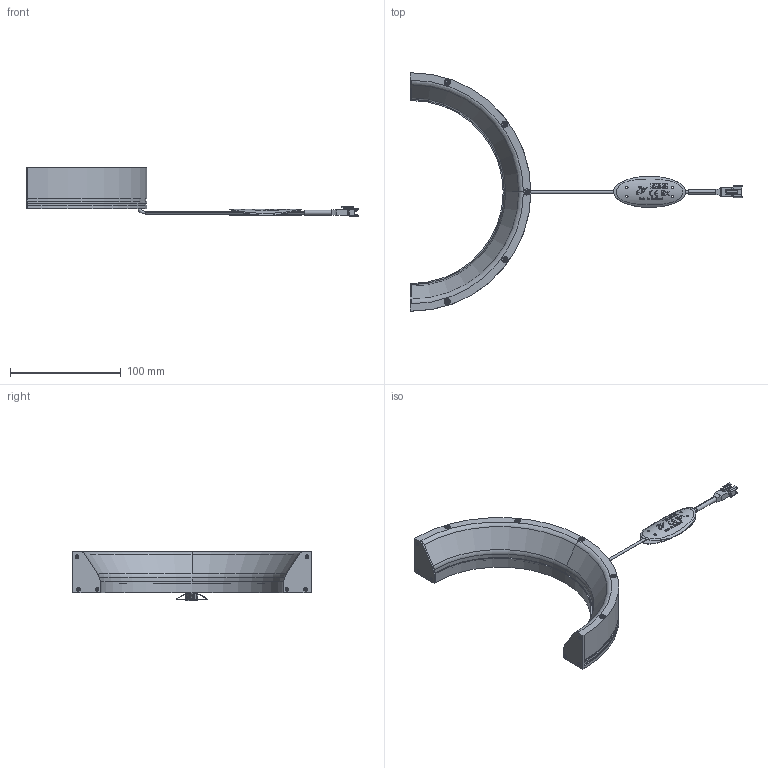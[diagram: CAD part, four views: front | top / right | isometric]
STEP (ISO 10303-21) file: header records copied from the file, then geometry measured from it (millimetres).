
FILE_DESCRIPTION( ('This file contains a STEP AP42 implementation' ,'as created by ZW3D STEP Interface translator.') ,'2;1' );
FILE_NAME( 'VMR-215165-HF_DRAWING_3D_.stp' ,'25 7 8.105246', (''), ('ZWCAD Software Co.'), 'Version 1.0', 'ZW3D to STEP translator', '' );
FILE_SCHEMA(('AUTOMOTIVE_DESIGN { 1 0 10303 214 1 1 1 1 }'));
Length unit declared in the file: millimetre
Products named in the file (1): 0
Bounding box: 299.44 x 215 x 44.25 mm (x, y, z)
Volume: 142206.5 mm3; surface area: 74296.6 mm2
Topology: 2 solids, 20 shells, 718 faces, 2101 edges, 1469 vertices
Faces by surface type: plane 377, cylinder 240, cone 66, torus 19, sphere 10, bspline 6
Entity records: 27862 total; most frequent: CARTESIAN_POINT 8095, ORIENTED_EDGE 4126, DIRECTION 3688, EDGE_CURVE 2063, VERTEX_POINT 1469, AXIS2_PLACEMENT_3D 1258, VECTOR 1172, LINE 1172
